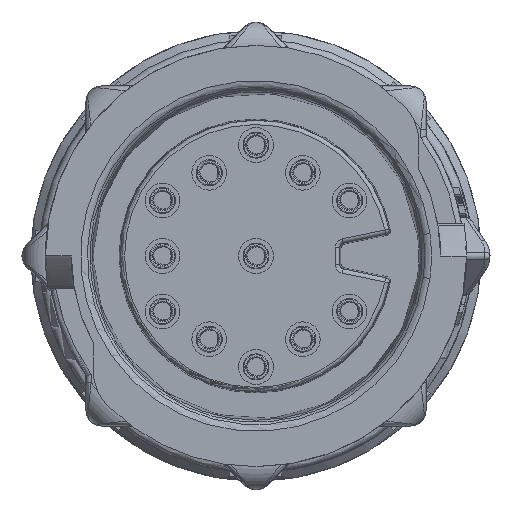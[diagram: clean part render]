
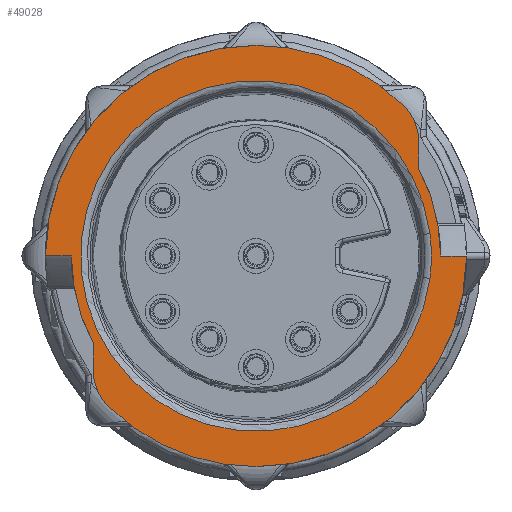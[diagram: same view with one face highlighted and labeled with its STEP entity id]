
A CAD part, left-side view. The second image highlights one B-rep face of the part: STEP entity #49028.
In plain terms, the highlighted planar face has unit normal (-1, 0, 0).
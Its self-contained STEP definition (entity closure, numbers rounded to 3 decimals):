
#8309=CARTESIAN_POINT('',(33.268,-10.65,0.));
#8322=CARTESIAN_POINT('',(33.268,0.,0.));
#8323=DIRECTION('',(1.,0.,0.));
#8324=DIRECTION('',(0.,-1.,0.));
#8325=AXIS2_PLACEMENT_3D('',#8322,#8323,#8324);
#8327=CARTESIAN_POINT('',(33.268,0.,0.));
#8328=DIRECTION('',(1.,0.,0.));
#8329=DIRECTION('',(0.,0.,-1.));
#8330=AXIS2_PLACEMENT_3D('',#8327,#8328,#8329);
#8332=CARTESIAN_POINT('',(33.268,6.403,-6.536));
#8333=DIRECTION('',(1.,0.,0.));
#8334=DIRECTION('',(0.,0.7,-0.714));
#8335=AXIS2_PLACEMENT_3D('',#8332,#8333,#8334);
#8337=CARTESIAN_POINT('',(33.268,0.,0.));
#8338=DIRECTION('',(1.,0.,0.));
#8339=DIRECTION('',(0.,0.883,-0.469));
#8340=AXIS2_PLACEMENT_3D('',#8337,#8338,#8339);
#8342=CARTESIAN_POINT('',(33.268,0.,0.));
#8343=DIRECTION('',(1.,0.,0.));
#8344=DIRECTION('',(0.,1.,0.));
#8345=AXIS2_PLACEMENT_3D('',#8342,#8343,#8344);
#8347=CARTESIAN_POINT('',(33.268,0.,0.));
#8348=DIRECTION('',(1.,0.,0.));
#8349=DIRECTION('',(0.,0.,1.));
#8350=AXIS2_PLACEMENT_3D('',#8347,#8348,#8349);
#8352=CARTESIAN_POINT('',(33.268,-6.403,6.536));
#8353=DIRECTION('',(1.,0.,0.));
#8354=DIRECTION('',(0.,-0.7,0.714));
#8355=AXIS2_PLACEMENT_3D('',#8352,#8353,#8354);
#8357=CARTESIAN_POINT('',(33.268,0.,0.));
#8358=DIRECTION('',(1.,0.,0.));
#8359=DIRECTION('',(0.,-0.883,0.469));
#8360=AXIS2_PLACEMENT_3D('',#8357,#8358,#8359);
#8362=DIRECTION('',(0.,-1.,0.));
#8363=VECTOR('',#8362,1.5);
#8364=CARTESIAN_POINT('',(33.268,-10.65,0.));
#8365=LINE('',#8364,#8363);
#8366=CARTESIAN_POINT('',(33.268,0.,0.));
#8367=DIRECTION('',(-1.,0.,0.));
#8368=DIRECTION('',(0.,-0.992,-0.128));
#8369=AXIS2_PLACEMENT_3D('',#8366,#8367,#8368);
#8371=CARTESIAN_POINT('',(33.268,0.,0.));
#8372=DIRECTION('',(-1.,0.,0.));
#8373=DIRECTION('',(0.,-0.992,0.128));
#8374=AXIS2_PLACEMENT_3D('',#8371,#8372,#8373);
#8512=DIRECTION('',(0.,-1.,0.));
#8513=VECTOR('',#8512,1.5);
#8514=CARTESIAN_POINT('',(33.268,12.15,0.));
#8515=LINE('',#8514,#8513);
#8558=DIRECTION('',(0.,0.,1.));
#8559=VECTOR('',#8558,1.536);
#8560=CARTESIAN_POINT('',(33.268,-9.403,5.));
#8561=LINE('',#8560,#8559);
#8574=DIRECTION('',(0.,0.,-1.));
#8575=VECTOR('',#8574,1.536);
#8576=CARTESIAN_POINT('',(33.268,9.403,-5.));
#8577=LINE('',#8576,#8575);
#31624=VERTEX_POINT('',#8309);
#31626=CARTESIAN_POINT('',(33.268,-9.403,
5.));
#31627=VERTEX_POINT('',#31626);
#31646=CARTESIAN_POINT('',(33.268,8.503,
-8.679));
#31648=VERTEX_POINT('',#31646);
#31650=CARTESIAN_POINT('',(33.268,0.,-12.15));
#31651=VERTEX_POINT('',#31650);
#31652=CARTESIAN_POINT('',(33.268,-12.15,0.));
#31653=VERTEX_POINT('',#31652);
#31654=CARTESIAN_POINT('',(33.268,9.403,
-6.536));
#31655=VERTEX_POINT('',#31654);
#31656=CARTESIAN_POINT('',(33.268,9.403,
-5.));
#31657=VERTEX_POINT('',#31656);
#31658=CARTESIAN_POINT('',(33.268,12.15,0.));
#31659=CARTESIAN_POINT('',(33.268,10.65,0.));
#31660=VERTEX_POINT('',#31658);
#31661=VERTEX_POINT('',#31659);
#31662=CARTESIAN_POINT('',(33.268,-8.503,
8.679));
#31663=CARTESIAN_POINT('',(33.268,-9.403,
6.536));
#31664=VERTEX_POINT('',#31662);
#31665=VERTEX_POINT('',#31663);
#31666=CARTESIAN_POINT('',(33.268,-10.034,
-1.292));
#31667=CARTESIAN_POINT('',(33.268,-10.034,
1.292));
#31668=VERTEX_POINT('',#31666);
#31669=VERTEX_POINT('',#31667);
#31689=CARTESIAN_POINT('',(33.268,0.,12.15));
#31690=VERTEX_POINT('',#31689);
#48995=CARTESIAN_POINT('',(33.268,0.,0.));
#48996=DIRECTION('',(1.,0.,0.));
#48997=DIRECTION('',(0.,0.,-1.));
#48998=AXIS2_PLACEMENT_3D('',#48995,#48996,#48997);
#48999=PLANE('',#48998);
#49000=ORIENTED_EDGE('',*,*,#48899,.T.);
#49001=ORIENTED_EDGE('',*,*,#48897,.T.);
#49003=ORIENTED_EDGE('',*,*,#49002,.T.);
#49005=ORIENTED_EDGE('',*,*,#49004,.F.);
#49007=ORIENTED_EDGE('',*,*,#49006,.T.);
#49009=ORIENTED_EDGE('',*,*,#49008,.F.);
#49011=ORIENTED_EDGE('',*,*,#49010,.T.);
#49013=ORIENTED_EDGE('',*,*,#49012,.T.);
#49015=ORIENTED_EDGE('',*,*,#49014,.T.);
#49017=ORIENTED_EDGE('',*,*,#49016,.F.);
#49018=ORIENTED_EDGE('',*,*,#48793,.T.);
#49019=ORIENTED_EDGE('',*,*,#48982,.T.);
#49020=EDGE_LOOP('',(#49000,#49001,#49003,#49005,#49007,#49009,#49011,#49013,
#49015,#49017,#49018,#49019));
#49021=FACE_OUTER_BOUND('',#49020,.F.);
#49023=ORIENTED_EDGE('',*,*,#49022,.T.);
#49025=ORIENTED_EDGE('',*,*,#49024,.T.);
#49026=EDGE_LOOP('',(#49023,#49025));
#49027=FACE_BOUND('',#49026,.F.);
#49028=ADVANCED_FACE('',(#49021,#49027),#48999,.F.);
#8326=CIRCLE('',#8325,12.15);
#8331=CIRCLE('',#8330,12.15);
#8336=CIRCLE('',#8335,3.);
#8341=CIRCLE('',#8340,10.65);
#8346=CIRCLE('',#8345,12.15);
#8351=CIRCLE('',#8350,12.15);
#8356=CIRCLE('',#8355,3.);
#8361=CIRCLE('',#8360,10.65);
#8370=CIRCLE('',#8369,10.117);
#8375=CIRCLE('',#8374,10.117);
#48793=EDGE_CURVE('',#31627,#31624,#8361,.T.);
#48897=EDGE_CURVE('',#31651,#31648,#8331,.T.);
#48899=EDGE_CURVE('',#31653,#31651,#8326,.T.);
#48982=EDGE_CURVE('',#31624,#31653,#8365,.T.);
#49002=EDGE_CURVE('',#31648,#31655,#8336,.T.);
#49004=EDGE_CURVE('',#31657,#31655,#8577,.T.);
#49006=EDGE_CURVE('',#31657,#31661,#8341,.T.);
#49008=EDGE_CURVE('',#31660,#31661,#8515,.T.);
#49010=EDGE_CURVE('',#31660,#31690,#8346,.T.);
#49012=EDGE_CURVE('',#31690,#31664,#8351,.T.);
#49014=EDGE_CURVE('',#31664,#31665,#8356,.T.);
#49016=EDGE_CURVE('',#31627,#31665,#8561,.T.);
#49022=EDGE_CURVE('',#31668,#31669,#8370,.T.);
#49024=EDGE_CURVE('',#31669,#31668,#8375,.T.);
